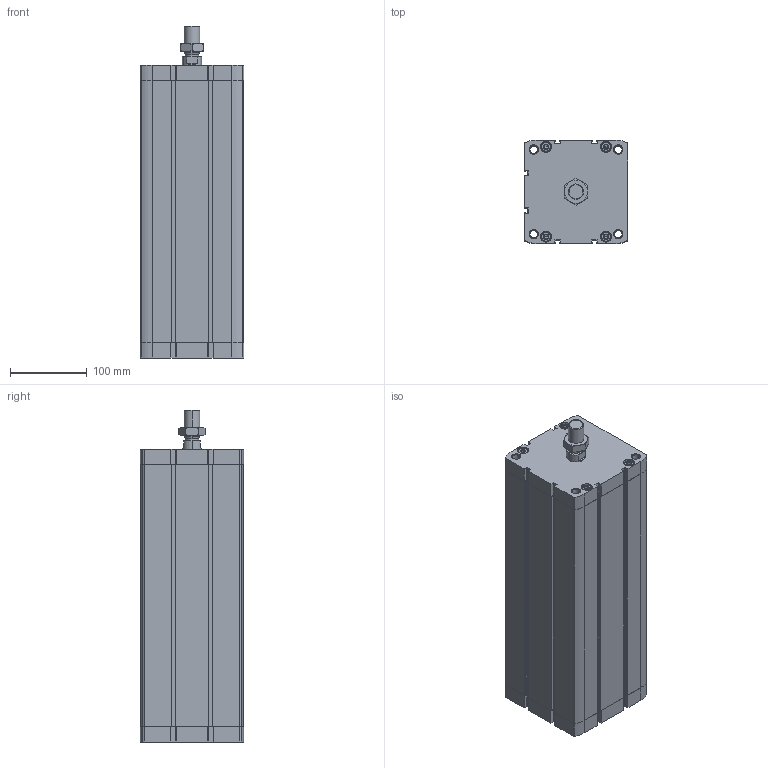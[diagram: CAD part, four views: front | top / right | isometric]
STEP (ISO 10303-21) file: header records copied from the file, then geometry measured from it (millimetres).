
FILE_DESCRIPTION (( 'STEP AP203' ), '1' );
FILE_NAME ('CCN125-300M.STEP', '2020-06-05T19:25:17', ( '' ), ( '' ), 'SwSTEP 2.0', 'SolidWorks 2019', '' );
FILE_SCHEMA (( 'CONFIG_CONTROL_DESIGN' ));
Length unit declared in the file: millimetre
Products named in the file (1): CCN125-300M
Bounding box: 134.6 x 134.6 x 432 mm (x, y, z)
Volume: 3089767.9 mm3; surface area: 543558.3 mm2
Topology: 3 solids, 3 shells, 555 faces, 1412 edges, 886 vertices
Faces by surface type: plane 275, cylinder 196, cone 80, torus 4
Entity records: 18163 total; most frequent: CARTESIAN_POINT 4452, DIRECTION 2966, ORIENTED_EDGE 2792, EDGE_CURVE 1396, AXIS2_PLACEMENT_3D 1092, VERTEX_POINT 886, VECTOR 782, LINE 782
